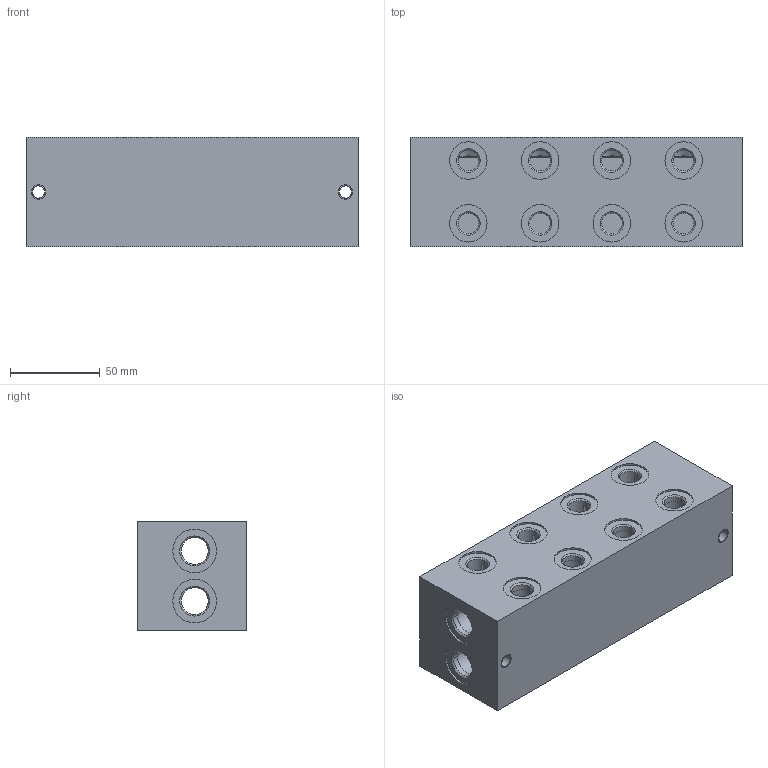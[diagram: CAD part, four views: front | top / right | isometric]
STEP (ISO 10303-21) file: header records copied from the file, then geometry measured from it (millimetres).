
FILE_DESCRIPTION((''),'2;1');
FILE_NAME('760_6840','2015-11-27T',('Ahcz.brigadnik05'),(''),'PRO/ENGINEER BY PARAMETRIC TECHNOLOGY CORPORATION, 2015110','PRO/ENGINEER BY PARAMETRIC TECHNOLOGY CORPORATION, 2015110','');
FILE_SCHEMA(('AUTOMOTIVE_DESIGN { 1 0 10303 214 1 1 1 1 }'));
Length unit declared in the file: millimetre
Products named in the file (1): 760_6840
Bounding box: 185 x 61 x 61 mm (x, y, z)
Volume: 265087.6 mm3; surface area: 106484 mm2
Topology: 1 solids, 31 shells, 279 faces, 1485 edges, 1418 vertices
Faces by surface type: cylinder 190, plane 58, cone 31
Entity records: 16314 total; most frequent: CARTESIAN_POINT 3333, DIRECTION 2414, ORIENTED_EDGE 1418, VECTOR 986, LINE 986, EDGE_CURVE 769, TRIMMED_CURVE 715, AXIS2_PLACEMENT_3D 714
